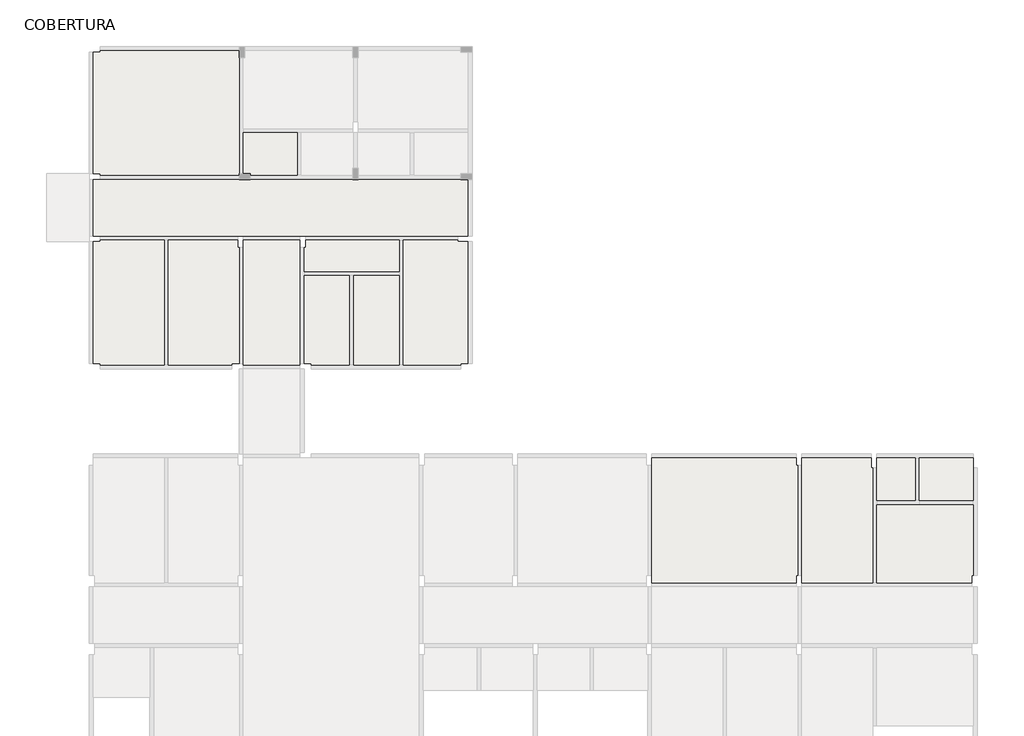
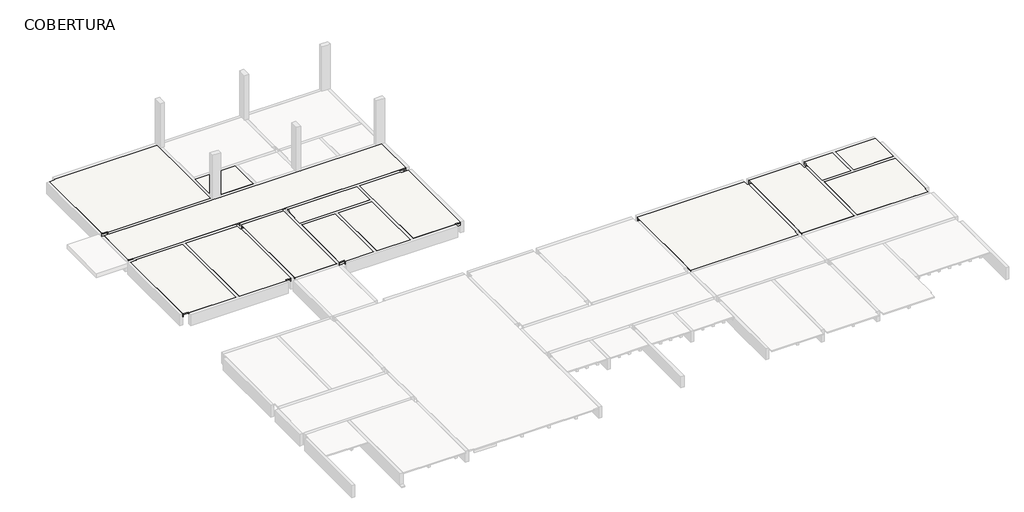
# One storey, part 3 of 5: 30 slabs.
"""IFC4 building model written with IfcOpenShell, lengths in millimetres."""

from ifc_helpers import new_model, si_unit, frame, origin, place, context, project, spatial, polyline, outline, extrude, faceted_brep, element, save

model = new_model("IFC4")

# Units and contexts
model_context = context("Model", 3, world=origin())
ifc_project = project(units=[si_unit("LENGTHUNIT", "METRE", prefix="MILLI")], contexts=[model_context])

# Site, building, storey
site = spatial("IfcSite", under=ifc_project)
building = spatial("IfcBuilding", under=site)
storey = spatial("IfcBuildingStorey", under=building, Name="COBERTURA", Elevation=4800.0)

# Slabs
placement = place(None, origin())
element("IfcSlab", 1, ObjectType="h=5", at=placement, inside=storey, context=model_context, shape_type="Brep", body=[
    faceted_brep([(19880.0, 11250.0, 4750.0), (24980.0, 11250.0, 4750.0), (24980.0, 11000.0, 4750.0), (25030.0, 11000.0, 4750.0), (25030.0, 7100.0, 4750.0), (24980.0, 7100.0, 4750.0), (24980.0, 6850.0, 4750.0), (19880.0, 6850.0, 4750.0), (19880.0, 11250.0, 4800.0), (19880.0, 11000.0, 4800.0), (19880.0, 7100.0, 4800.0), (19880.0, 6850.0, 4800.0), (24980.0, 6850.0, 4800.0), (24980.0, 7100.0, 4800.0), (25030.0, 7100.0, 4800.0), (25030.0, 11000.0, 4800.0), (24980.0, 11000.0, 4800.0), (24980.0, 11250.0, 4800.0)], [[[0, 1, 2, 3, 4, 5, 6, 7]], [[8, 9, 10, 11, 12, 13, 14, 15, 16, 17]], [[1, 0, 8, 17]], [[2, 1, 17, 16]], [[3, 2, 16, 15]], [[4, 3, 15, 14]], [[5, 4, 14, 13]], [[6, 5, 13, 12]], [[7, 6, 12, 11]], [[0, 7, 11, 10, 9, 8]]]),
])
element("IfcSlab", 2, ObjectType="h=10", at=placement, inside=storey, context=model_context, shape_type="SweptSolid", body=[
    extrude(outline(polyline([(19880.0, 11250.0), (24980.0, 11250.0), (24980.0, 11000.0), (25030.0, 11000.0), (25030.0, 7100.0), (24980.0, 7100.0), (24980.0, 6850.0), (24950.0, 6850.0), (24950.0, 7250.0), (23750.0, 7250.0), (23750.0, 6850.0), (23660.0, 6850.0), (23660.0, 7250.0), (22460.0, 7250.0), (22460.0, 6850.0), (22370.0, 6850.0), (22370.0, 7250.0), (21170.0, 7250.0), (21170.0, 6850.0), (21080.0, 6850.0), (21080.0, 7250.0), (19880.0, 7250.0), (19880.0, 7340.0), (21080.0, 7340.0), (21080.0, 7740.0), (19880.0, 7740.0), (19880.0, 7830.0), (21080.0, 7830.0), (21080.0, 8230.0), (19880.0, 8230.0), (19880.0, 8320.0), (21080.0, 8320.0), (21080.0, 8720.0), (19880.0, 8720.0), (19880.0, 8810.0), (21080.0, 8810.0), (21080.0, 9210.0), (19880.0, 9210.0), (19880.0, 9300.0), (21080.0, 9300.0), (21080.0, 9700.0), (19880.0, 9700.0), (19880.0, 9790.0), (21080.0, 9790.0), (21080.0, 10190.0), (19880.0, 10190.0), (19880.0, 10280.0), (21080.0, 10280.0), (21080.0, 10680.0), (19880.0, 10680.0), (19880.0, 10770.0), (21080.0, 10770.0), (21080.0, 11170.0), (19880.0, 11170.0), (19880.0, 11250.0)]), holes=[polyline([(22370.0, 7740.0), (21170.0, 7740.0), (21170.0, 7340.0), (22370.0, 7340.0), (22370.0, 7740.0)]), polyline([(23660.0, 7740.0), (22460.0, 7740.0), (22460.0, 7340.0), (23660.0, 7340.0), (23660.0, 7740.0)]), polyline([(24950.0, 7740.0), (23750.0, 7740.0), (23750.0, 7340.0), (24950.0, 7340.0), (24950.0, 7740.0)]), polyline([(22370.0, 8230.0), (21170.0, 8230.0), (21170.0, 7830.0), (22370.0, 7830.0), (22370.0, 8230.0)]), polyline([(23660.0, 8230.0), (22460.0, 8230.0), (22460.0, 7830.0), (23660.0, 7830.0), (23660.0, 8230.0)]), polyline([(24950.0, 8230.0), (23750.0, 8230.0), (23750.0, 7830.0), (24950.0, 7830.0), (24950.0, 8230.0)]), polyline([(22370.0, 8720.0), (21170.0, 8720.0), (21170.0, 8320.0), (22370.0, 8320.0), (22370.0, 8720.0)]), polyline([(23660.0, 8720.0), (22460.0, 8720.0), (22460.0, 8320.0), (23660.0, 8320.0), (23660.0, 8720.0)]), polyline([(24950.0, 8720.0), (23750.0, 8720.0), (23750.0, 8320.0), (24950.0, 8320.0), (24950.0, 8720.0)]), polyline([(22370.0, 9210.0), (21170.0, 9210.0), (21170.0, 8810.0), (22370.0, 8810.0), (22370.0, 9210.0)]), polyline([(23660.0, 9210.0), (22460.0, 9210.0), (22460.0, 8810.0), (23660.0, 8810.0), (23660.0, 9210.0)]), polyline([(24950.0, 9210.0), (23750.0, 9210.0), (23750.0, 8810.0), (24950.0, 8810.0), (24950.0, 9210.0)]), polyline([(22370.0, 9700.0), (21170.0, 9700.0), (21170.0, 9300.0), (22370.0, 9300.0), (22370.0, 9700.0)]), polyline([(23660.0, 9700.0), (22460.0, 9700.0), (22460.0, 9300.0), (23660.0, 9300.0), (23660.0, 9700.0)]), polyline([(24950.0, 9700.0), (23750.0, 9700.0), (23750.0, 9300.0), (24950.0, 9300.0), (24950.0, 9700.0)]), polyline([(22370.0, 10190.0), (21170.0, 10190.0), (21170.0, 9790.0), (22370.0, 9790.0), (22370.0, 10190.0)]), polyline([(23660.0, 10190.0), (22460.0, 10190.0), (22460.0, 9790.0), (23660.0, 9790.0), (23660.0, 10190.0)]), polyline([(24950.0, 10190.0), (23750.0, 10190.0), (23750.0, 9790.0), (24950.0, 9790.0), (24950.0, 10190.0)]), polyline([(22370.0, 10680.0), (21170.0, 10680.0), (21170.0, 10280.0), (22370.0, 10280.0), (22370.0, 10680.0)]), polyline([(23660.0, 10680.0), (22460.0, 10680.0), (22460.0, 10280.0), (23660.0, 10280.0), (23660.0, 10680.0)]), polyline([(24950.0, 10680.0), (23750.0, 10680.0), (23750.0, 10280.0), (24950.0, 10280.0), (24950.0, 10680.0)]), polyline([(22370.0, 11170.0), (21170.0, 11170.0), (21170.0, 10770.0), (22370.0, 10770.0), (22370.0, 11170.0)]), polyline([(23660.0, 11170.0), (22460.0, 11170.0), (22460.0, 10770.0), (23660.0, 10770.0), (23660.0, 11170.0)]), polyline([(24950.0, 11170.0), (23750.0, 11170.0), (23750.0, 10770.0), (24950.0, 10770.0), (24950.0, 11170.0)])]), frame((0.0, 0.0, 4650.0), z_axis=(0.0, 0.0, 1.0), x_axis=(1.0, 0.0, 0.0)), (0.0, 0.0, 1.0), 100.0),
])
element("IfcSlab", 3, ObjectType="h=5", at=placement, inside=storey, context=model_context, shape_type="Brep", body=[
    faceted_brep([(25180.0, 11250.0, 4750.0), (27630.0, 11250.0, 4750.0), (27630.0, 10900.0, 4750.0), (27680.0, 10900.0, 4750.0), (27680.0, 6850.0, 4750.0), (25180.0, 6850.0, 4750.0), (25180.0, 11250.0, 4800.0), (25180.0, 11000.0, 4800.0), (25180.0, 7100.0, 4800.0), (25180.0, 6850.0, 4800.0), (27680.0, 6850.0, 4800.0), (27680.0, 10900.0, 4800.0), (27630.0, 10900.0, 4800.0), (27630.0, 11250.0, 4800.0)], [[[0, 1, 2, 3, 4, 5]], [[6, 7, 8, 9, 10, 11, 12, 13]], [[1, 0, 6, 13]], [[2, 1, 13, 12]], [[3, 2, 12, 11]], [[4, 3, 11, 10]], [[5, 4, 10, 9]], [[0, 5, 9, 8, 7, 6]]]),
])
element("IfcSlab", 4, ObjectType="h=10", at=placement, inside=storey, context=model_context, shape_type="SweptSolid", body=[
    extrude(outline(polyline([(25180.0, 11250.0), (27630.0, 11250.0), (27630.0, 11170.0), (26470.0, 11170.0), (26470.0, 10770.0), (27670.0, 10770.0), (27670.0, 10900.0), (27680.0, 10900.0), (27680.0, 6850.0), (27670.0, 6850.0), (27670.0, 7250.0), (26470.0, 7250.0), (26470.0, 6850.0), (26380.0, 6850.0), (26380.0, 7250.0), (25180.0, 7250.0), (25180.0, 7340.0), (26380.0, 7340.0), (26380.0, 7740.0), (25180.0, 7740.0), (25180.0, 7830.0), (26380.0, 7830.0), (26380.0, 8230.0), (25180.0, 8230.0), (25180.0, 8320.0), (26380.0, 8320.0), (26380.0, 8720.0), (25180.0, 8720.0), (25180.0, 8810.0), (26380.0, 8810.0), (26380.0, 9210.0), (25180.0, 9210.0), (25180.0, 9300.0), (26380.0, 9300.0), (26380.0, 9700.0), (25180.0, 9700.0), (25180.0, 9790.0), (26380.0, 9790.0), (26380.0, 10190.0), (25180.0, 10190.0), (25180.0, 10280.0), (26380.0, 10280.0), (26380.0, 10680.0), (25180.0, 10680.0), (25180.0, 10770.0), (26380.0, 10770.0), (26380.0, 11170.0), (25180.0, 11170.0), (25180.0, 11250.0)]), holes=[polyline([(27670.0, 7740.0), (26470.0, 7740.0), (26470.0, 7340.0), (27670.0, 7340.0), (27670.0, 7740.0)]), polyline([(27670.0, 8230.0), (26470.0, 8230.0), (26470.0, 7830.0), (27670.0, 7830.0), (27670.0, 8230.0)]), polyline([(27670.0, 8720.0), (26470.0, 8720.0), (26470.0, 8320.0), (27670.0, 8320.0), (27670.0, 8720.0)]), polyline([(27670.0, 9210.0), (26470.0, 9210.0), (26470.0, 8810.0), (27670.0, 8810.0), (27670.0, 9210.0)]), polyline([(27670.0, 9700.0), (26470.0, 9700.0), (26470.0, 9300.0), (27670.0, 9300.0), (27670.0, 9700.0)]), polyline([(27670.0, 10190.0), (26470.0, 10190.0), (26470.0, 9790.0), (27670.0, 9790.0), (27670.0, 10190.0)]), polyline([(27670.0, 10680.0), (26470.0, 10680.0), (26470.0, 10280.0), (27670.0, 10280.0), (27670.0, 10680.0)])]), frame((0.0, 0.0, 4650.0), z_axis=(0.0, 0.0, 1.0), x_axis=(1.0, 0.0, 0.0)), (0.0, 0.0, 1.0), 100.0),
])
element("IfcSlab", 5, ObjectType="h=5", at=placement, inside=storey, context=model_context, shape_type="Brep", body=[
    faceted_brep([(31180.0, 6850.0, 4750.0), (27830.0, 6850.0, 4750.0), (27830.0, 9600.0, 4750.0), (31230.0, 9600.0, 4750.0), (31230.0, 7100.0, 4750.0), (31180.0, 7100.0, 4750.0), (31180.0, 6850.0, 4800.0), (31180.0, 7100.0, 4800.0), (31230.0, 7100.0, 4800.0), (31230.0, 9600.0, 4800.0), (29330.0, 9600.0, 4800.0), (27830.0, 9600.0, 4800.0), (27830.0, 6850.0, 4800.0)], [[[0, 1, 2, 3, 4, 5]], [[6, 7, 8, 9, 10, 11, 12]], [[1, 0, 6, 12]], [[2, 1, 12, 11]], [[3, 2, 11, 10, 9]], [[4, 3, 9, 8]], [[5, 4, 8, 7]], [[0, 5, 7, 6]]]),
])
element("IfcSlab", 6, ObjectType="h=10", at=placement, inside=storey, context=model_context, shape_type="SweptSolid", body=[
    extrude(outline(polyline([(31230.0, 7100.0), (31180.0, 7100.0), (31180.0, 7250.0), (30410.0, 7250.0), (30410.0, 6850.0), (30320.0, 6850.0), (30320.0, 7250.0), (29120.0, 7250.0), (29120.0, 6850.0), (29030.0, 6850.0), (29030.0, 7250.0), (27830.0, 7250.0), (27830.0, 7340.0), (29030.0, 7340.0), (29030.0, 7740.0), (27830.0, 7740.0), (27830.0, 7830.0), (29030.0, 7830.0), (29030.0, 8230.0), (27830.0, 8230.0), (27830.0, 8320.0), (29030.0, 8320.0), (29030.0, 8720.0), (27830.0, 8720.0), (27830.0, 8810.0), (29030.0, 8810.0), (29030.0, 9210.0), (27830.0, 9210.0), (27830.0, 9300.0), (29030.0, 9300.0), (29030.0, 9600.0), (29120.0, 9600.0), (29120.0, 9300.0), (30320.0, 9300.0), (30320.0, 9600.0), (30410.0, 9600.0), (30410.0, 9300.0), (31230.0, 9300.0), (31230.0, 9210.0), (30410.0, 9210.0), (30410.0, 8810.0), (31230.0, 8810.0), (31230.0, 8720.0), (30410.0, 8720.0), (30410.0, 8320.0), (31230.0, 8320.0), (31230.0, 8230.0), (30410.0, 8230.0), (30410.0, 7830.0), (31230.0, 7830.0), (31230.0, 7740.0), (30410.0, 7740.0), (30410.0, 7340.0), (31230.0, 7340.0), (31230.0, 7100.0)]), holes=[polyline([(30320.0, 7740.0), (29120.0, 7740.0), (29120.0, 7340.0), (30320.0, 7340.0), (30320.0, 7740.0)]), polyline([(30320.0, 8230.0), (29120.0, 8230.0), (29120.0, 7830.0), (30320.0, 7830.0), (30320.0, 8230.0)]), polyline([(30320.0, 8720.0), (29120.0, 8720.0), (29120.0, 8320.0), (30320.0, 8320.0), (30320.0, 8720.0)]), polyline([(30320.0, 9210.0), (29120.0, 9210.0), (29120.0, 8810.0), (30320.0, 8810.0), (30320.0, 9210.0)])]), frame((0.0, 0.0, 4650.0), z_axis=(0.0, 0.0, 1.0), x_axis=(1.0, 0.0, 0.0)), (0.0, 0.0, 1.0), 100.0),
])
element("IfcSlab", 7, ObjectType="h=5", at=placement, inside=storey, context=model_context, shape_type="Brep", body=[
    faceted_brep([(27830.0, 11250.0, 4750.0), (29180.0, 11250.0, 4750.0), (29180.0, 9750.0, 4750.0), (27830.0, 9750.0, 4750.0), (27830.0, 11250.0, 4800.0), (27830.0, 10900.0, 4800.0), (27830.0, 9750.0, 4800.0), (29180.0, 9750.0, 4800.0), (29180.0, 11250.0, 4800.0)], [[[0, 1, 2, 3]], [[4, 5, 6, 7, 8]], [[1, 0, 4, 8]], [[2, 1, 8, 7]], [[3, 2, 7, 6]], [[0, 3, 6, 5, 4]]]),
])
element("IfcSlab", 8, ObjectType="h=10", at=placement, inside=storey, context=model_context, shape_type="SweptSolid", body=[
    extrude(outline(polyline([(27830.0, 11250.0), (29180.0, 11250.0), (29180.0, 9750.0), (29030.0, 9750.0), (29030.0, 10150.0), (27830.0, 10150.0), (27830.0, 10240.0), (29030.0, 10240.0), (29030.0, 10640.0), (27830.0, 10640.0), (27830.0, 10730.0), (29030.0, 10730.0), (29030.0, 11130.0), (27830.0, 11130.0), (27830.0, 11250.0)])), frame((0.0, 0.0, 4650.0), z_axis=(0.0, 0.0, 1.0), x_axis=(1.0, 0.0, 0.0)), (0.0, 0.0, 1.0), 100.0),
])
element("IfcSlab", 9, ObjectType="h=5", at=placement, inside=storey, context=model_context, shape_type="Brep", body=[
    faceted_brep([(29330.0, 11250.0, 4750.0), (31230.0, 11250.0, 4750.0), (31230.0, 9750.0, 4750.0), (29330.0, 9750.0, 4750.0), (29330.0, 11250.0, 4800.0), (29330.0, 9750.0, 4800.0), (31230.0, 9750.0, 4800.0), (31230.0, 10900.0, 4800.0), (31230.0, 11250.0, 4800.0)], [[[0, 1, 2, 3]], [[4, 5, 6, 7, 8]], [[1, 0, 4, 8]], [[2, 1, 8, 7, 6]], [[3, 2, 6, 5]], [[0, 3, 5, 4]]]),
])
element("IfcSlab", 10, ObjectType="h=10", at=placement, inside=storey, context=model_context, shape_type="SweptSolid", body=[
    extrude(outline(polyline([(29330.0, 11250.0), (31230.0, 11250.0), (31230.0, 10640.0), (30620.0, 10640.0), (30620.0, 10240.0), (31230.0, 10240.0), (31230.0, 10150.0), (30620.0, 10150.0), (30620.0, 9750.0), (30530.0, 9750.0), (30530.0, 10150.0), (29330.0, 10150.0), (29330.0, 10240.0), (30530.0, 10240.0), (30530.0, 10640.0), (29330.0, 10640.0), (29330.0, 10730.0), (30530.0, 10730.0), (30530.0, 11130.0), (29330.0, 11130.0), (29330.0, 11250.0)]), holes=[polyline([(31180.0, 11130.0), (30620.0, 11130.0), (30620.0, 10730.0), (31180.0, 10730.0), (31180.0, 11130.0)])]), frame((0.0, 0.0, 4650.0), z_axis=(0.0, 0.0, 1.0), x_axis=(1.0, 0.0, 0.0)), (0.0, 0.0, 1.0), 100.0),
])
element("IfcSlab", 11, ObjectType="h=5", at=placement, inside=storey, context=model_context, shape_type="SweptSolid", body=[
    extrude(outline(polyline([(400.0, 18950.0), (2650.0, 18950.0), (2650.0, 14550.0), (400.0, 14550.0), (400.0, 14600.0), (150.0, 14600.0), (150.0, 18900.0), (400.0, 18900.0), (400.0, 18950.0)])), frame((0.0, 0.0, 4750.0), z_axis=(0.0, 0.0, 1.0), x_axis=(1.0, 0.0, 0.0)), (0.0, 0.0, 1.0), 50.0),
])
element("IfcSlab", 12, ObjectType="h=10", at=placement, inside=storey, context=model_context, shape_type="SweptSolid", body=[
    extrude(outline(polyline([(400.0, 18950.0), (2650.0, 18950.0), (2650.0, 18870.0), (1450.0, 18870.0), (1450.0, 18470.0), (2650.0, 18470.0), (2650.0, 18380.0), (1450.0, 18380.0), (1450.0, 17980.0), (2650.0, 17980.0), (2650.0, 17890.0), (1450.0, 17890.0), (1450.0, 17490.0), (2650.0, 17490.0), (2650.0, 17400.0), (1450.0, 17400.0), (1450.0, 17000.0), (2650.0, 17000.0), (2650.0, 16910.0), (1450.0, 16910.0), (1450.0, 16510.0), (2650.0, 16510.0), (2650.0, 16420.0), (1450.0, 16420.0), (1450.0, 16020.0), (2650.0, 16020.0), (2650.0, 15930.0), (1450.0, 15930.0), (1450.0, 15530.0), (2650.0, 15530.0), (2650.0, 15440.0), (1450.0, 15440.0), (1450.0, 15040.0), (2650.0, 15040.0), (2650.0, 14950.0), (1450.0, 14950.0), (1450.0, 14550.0), (1360.0, 14550.0), (1360.0, 14950.0), (160.0, 14950.0), (160.0, 14600.0), (150.0, 14600.0), (150.0, 18900.0), (400.0, 18900.0), (400.0, 18950.0)]), holes=[polyline([(1360.0, 15440.0), (160.0, 15440.0), (160.0, 15040.0), (1360.0, 15040.0), (1360.0, 15440.0)]), polyline([(1360.0, 15930.0), (160.0, 15930.0), (160.0, 15530.0), (1360.0, 15530.0), (1360.0, 15930.0)]), polyline([(1360.0, 16420.0), (160.0, 16420.0), (160.0, 16020.0), (1360.0, 16020.0), (1360.0, 16420.0)]), polyline([(1360.0, 16910.0), (160.0, 16910.0), (160.0, 16510.0), (1360.0, 16510.0), (1360.0, 16910.0)]), polyline([(1360.0, 17400.0), (160.0, 17400.0), (160.0, 17000.0), (1360.0, 17000.0), (1360.0, 17400.0)]), polyline([(1360.0, 17890.0), (160.0, 17890.0), (160.0, 17490.0), (1360.0, 17490.0), (1360.0, 17890.0)]), polyline([(1360.0, 18380.0), (160.0, 18380.0), (160.0, 17980.0), (1360.0, 17980.0), (1360.0, 18380.0)]), polyline([(1360.0, 18870.0), (160.0, 18870.0), (160.0, 18470.0), (1360.0, 18470.0), (1360.0, 18870.0)])]), frame((0.0, 0.0, 4650.0), z_axis=(0.0, 0.0, 1.0), x_axis=(1.0, 0.0, 0.0)), (0.0, 0.0, 1.0), 100.0),
])
element("IfcSlab", 13, ObjectType="h=5", at=placement, inside=storey, context=model_context, shape_type="SweptSolid", body=[
    extrude(outline(polyline([(2800.0, 18950.0), (5250.0, 18950.0), (5250.0, 18700.0), (5300.0, 18700.0), (5300.0, 14600.0), (5050.0, 14600.0), (5050.0, 14550.0), (2800.0, 14550.0), (2800.0, 18950.0)])), frame((0.0, 0.0, 4750.0), z_axis=(0.0, 0.0, 1.0), x_axis=(1.0, 0.0, 0.0)), (0.0, 0.0, 1.0), 50.0),
])
element("IfcSlab", 14, ObjectType="h=10", at=placement, inside=storey, context=model_context, shape_type="SweptSolid", body=[
    extrude(outline(polyline([(2800.0, 18950.0), (5250.0, 18950.0), (5250.0, 18870.0), (4090.0, 18870.0), (4090.0, 18470.0), (5290.0, 18470.0), (5290.0, 18700.0), (5300.0, 18700.0), (5300.0, 14600.0), (5290.0, 14600.0), (5290.0, 14950.0), (4090.0, 14950.0), (4090.0, 14550.0), (4000.0, 14550.0), (4000.0, 14950.0), (2800.0, 14950.0), (2800.0, 15040.0), (4000.0, 15040.0), (4000.0, 15440.0), (2800.0, 15440.0), (2800.0, 15530.0), (4000.0, 15530.0), (4000.0, 15930.0), (2800.0, 15930.0), (2800.0, 16020.0), (4000.0, 16020.0), (4000.0, 16420.0), (2800.0, 16420.0), (2800.0, 16510.0), (4000.0, 16510.0), (4000.0, 16910.0), (2800.0, 16910.0), (2800.0, 17000.0), (4000.0, 17000.0), (4000.0, 17400.0), (2800.0, 17400.0), (2800.0, 17490.0), (4000.0, 17490.0), (4000.0, 17890.0), (2800.0, 17890.0), (2800.0, 17980.0), (4000.0, 17980.0), (4000.0, 18380.0), (2800.0, 18380.0), (2800.0, 18470.0), (4000.0, 18470.0), (4000.0, 18870.0), (2800.0, 18870.0), (2800.0, 18950.0)]), holes=[polyline([(5290.0, 15440.0), (4090.0, 15440.0), (4090.0, 15040.0), (5290.0, 15040.0), (5290.0, 15440.0)]), polyline([(5290.0, 15930.0), (4090.0, 15930.0), (4090.0, 15530.0), (5290.0, 15530.0), (5290.0, 15930.0)]), polyline([(5290.0, 16420.0), (4090.0, 16420.0), (4090.0, 16020.0), (5290.0, 16020.0), (5290.0, 16420.0)]), polyline([(5290.0, 16910.0), (4090.0, 16910.0), (4090.0, 16510.0), (5290.0, 16510.0), (5290.0, 16910.0)]), polyline([(5290.0, 17400.0), (4090.0, 17400.0), (4090.0, 17000.0), (5290.0, 17000.0), (5290.0, 17400.0)]), polyline([(5290.0, 17890.0), (4090.0, 17890.0), (4090.0, 17490.0), (5290.0, 17490.0), (5290.0, 17890.0)]), polyline([(5290.0, 18380.0), (4090.0, 18380.0), (4090.0, 17980.0), (5290.0, 17980.0), (5290.0, 18380.0)])]), frame((0.0, 0.0, 4650.0), z_axis=(0.0, 0.0, 1.0), x_axis=(1.0, 0.0, 0.0)), (0.0, 0.0, 1.0), 100.0),
])
element("IfcSlab", 15, ObjectType="h=5", at=placement, inside=storey, context=model_context, shape_type="Brep", body=[
    faceted_brep([(5450.0, 18950.0, 4750.0), (7450.0, 18950.0, 4750.0), (7450.0, 14550.0, 4750.0), (5450.0, 14550.0, 4750.0), (5450.0, 18950.0, 4800.0), (5450.0, 18700.0, 4800.0), (5450.0, 14600.0, 4800.0), (5450.0, 14550.0, 4800.0), (7450.0, 14550.0, 4800.0), (7450.0, 14600.0, 4800.0), (7450.0, 18700.0, 4800.0), (7450.0, 18950.0, 4800.0)], [[[0, 1, 2, 3]], [[4, 5, 6, 7, 8, 9, 10, 11]], [[1, 0, 4, 11]], [[2, 1, 11, 10, 9, 8]], [[3, 2, 8, 7]], [[0, 3, 7, 6, 5, 4]]]),
])
element("IfcSlab", 16, ObjectType="h=10", at=placement, inside=storey, context=model_context, shape_type="SweptSolid", body=[
    extrude(outline(polyline([(5450.0, 18950.0), (7450.0, 18950.0), (7450.0, 18870.0), (6740.0, 18870.0), (6740.0, 18470.0), (7450.0, 18470.0), (7450.0, 18380.0), (6740.0, 18380.0), (6740.0, 17980.0), (7450.0, 17980.0), (7450.0, 17890.0), (6740.0, 17890.0), (6740.0, 17490.0), (7450.0, 17490.0), (7450.0, 17400.0), (6740.0, 17400.0), (6740.0, 17000.0), (7450.0, 17000.0), (7450.0, 16910.0), (6740.0, 16910.0), (6740.0, 16510.0), (7450.0, 16510.0), (7450.0, 16420.0), (6740.0, 16420.0), (6740.0, 16020.0), (7450.0, 16020.0), (7450.0, 15930.0), (6740.0, 15930.0), (6740.0, 15530.0), (7450.0, 15530.0), (7450.0, 15440.0), (6740.0, 15440.0), (6740.0, 15040.0), (7450.0, 15040.0), (7450.0, 14950.0), (6740.0, 14950.0), (6740.0, 14550.0), (6650.0, 14550.0), (6650.0, 14950.0), (5450.0, 14950.0), (5450.0, 15040.0), (6650.0, 15040.0), (6650.0, 15440.0), (5450.0, 15440.0), (5450.0, 15530.0), (6650.0, 15530.0), (6650.0, 15930.0), (5450.0, 15930.0), (5450.0, 16020.0), (6650.0, 16020.0), (6650.0, 16420.0), (5450.0, 16420.0), (5450.0, 16510.0), (6650.0, 16510.0), (6650.0, 16910.0), (5450.0, 16910.0), (5450.0, 17000.0), (6650.0, 17000.0), (6650.0, 17400.0), (5450.0, 17400.0), (5450.0, 17490.0), (6650.0, 17490.0), (6650.0, 17890.0), (5450.0, 17890.0), (5450.0, 17980.0), (6650.0, 17980.0), (6650.0, 18380.0), (5450.0, 18380.0), (5450.0, 18470.0), (6650.0, 18470.0), (6650.0, 18870.0), (5450.0, 18870.0), (5450.0, 18950.0)])), frame((0.0, 0.0, 4650.0), z_axis=(0.0, 0.0, 1.0), x_axis=(1.0, 0.0, 0.0)), (0.0, 0.0, 1.0), 100.0),
])
element("IfcSlab", 17, ObjectType="h=5", at=placement, inside=storey, context=model_context, shape_type="SweptSolid", body=[
    extrude(outline(polyline([(9200.0, 14550.0), (7850.0, 14550.0), (7850.0, 14600.0), (7600.0, 14600.0), (7600.0, 17700.0), (9200.0, 17700.0), (9200.0, 14550.0)])), frame((0.0, 0.0, 4750.0), z_axis=(0.0, 0.0, 1.0), x_axis=(1.0, 0.0, 0.0)), (0.0, 0.0, 1.0), 50.0),
])
element("IfcSlab", 18, ObjectType="h=10", at=placement, inside=storey, context=model_context, shape_type="SweptSolid", body=[
    extrude(outline(polyline([(7850.0, 14550.0), (7850.0, 14600.0), (7600.0, 14600.0), (7600.0, 15040.0), (7910.0, 15040.0), (7910.0, 15440.0), (7600.0, 15440.0), (7600.0, 15530.0), (7910.0, 15530.0), (7910.0, 15930.0), (7600.0, 15930.0), (7600.0, 16020.0), (7910.0, 16020.0), (7910.0, 16420.0), (7600.0, 16420.0), (7600.0, 16510.0), (7910.0, 16510.0), (7910.0, 16910.0), (7600.0, 16910.0), (7600.0, 17000.0), (7910.0, 17000.0), (7910.0, 17400.0), (7600.0, 17400.0), (7600.0, 17490.0), (7910.0, 17490.0), (7910.0, 17700.0), (8000.0, 17700.0), (8000.0, 17490.0), (9200.0, 17490.0), (9200.0, 17400.0), (8000.0, 17400.0), (8000.0, 17000.0), (9200.0, 17000.0), (9200.0, 16910.0), (8000.0, 16910.0), (8000.0, 16510.0), (9200.0, 16510.0), (9200.0, 16420.0), (8000.0, 16420.0), (8000.0, 16020.0), (9200.0, 16020.0), (9200.0, 15930.0), (8000.0, 15930.0), (8000.0, 15530.0), (9200.0, 15530.0), (9200.0, 15440.0), (8000.0, 15440.0), (8000.0, 15040.0), (9200.0, 15040.0), (9200.0, 14950.0), (8000.0, 14950.0), (8000.0, 14550.0), (7850.0, 14550.0)])), frame((0.0, 0.0, 4650.0), z_axis=(0.0, 0.0, 1.0), x_axis=(1.0, 0.0, 0.0)), (0.0, 0.0, 1.0), 100.0),
])
element("IfcSlab", 19, ObjectType="h=5", at=placement, inside=storey, context=model_context, shape_type="SweptSolid", body=[
    extrude(outline(polyline([(10950.0, 14550.0), (9350.0, 14550.0), (9350.0, 17700.0), (10950.0, 17700.0), (10950.0, 14550.0)])), frame((0.0, 0.0, 4750.0), z_axis=(0.0, 0.0, 1.0), x_axis=(1.0, 0.0, 0.0)), (0.0, 0.0, 1.0), 50.0),
])
element("IfcSlab", 20, ObjectType="h=10", at=placement, inside=storey, context=model_context, shape_type="SweptSolid", body=[
    extrude(outline(polyline([(10550.0, 14950.0), (9350.0, 14950.0), (9350.0, 15040.0), (10550.0, 15040.0), (10550.0, 15440.0), (9350.0, 15440.0), (9350.0, 15530.0), (10550.0, 15530.0), (10550.0, 15930.0), (9350.0, 15930.0), (9350.0, 16020.0), (10550.0, 16020.0), (10550.0, 16420.0), (9350.0, 16420.0), (9350.0, 16510.0), (10550.0, 16510.0), (10550.0, 16910.0), (9350.0, 16910.0), (9350.0, 17000.0), (10550.0, 17000.0), (10550.0, 17400.0), (9350.0, 17400.0), (9350.0, 17490.0), (10550.0, 17490.0), (10550.0, 17700.0), (10640.0, 17700.0), (10640.0, 17490.0), (10950.0, 17490.0), (10950.0, 17400.0), (10640.0, 17400.0), (10640.0, 17000.0), (10950.0, 17000.0), (10950.0, 16910.0), (10640.0, 16910.0), (10640.0, 16510.0), (10950.0, 16510.0), (10950.0, 16420.0), (10640.0, 16420.0), (10640.0, 16020.0), (10950.0, 16020.0), (10950.0, 15930.0), (10640.0, 15930.0), (10640.0, 15530.0), (10950.0, 15530.0), (10950.0, 15440.0), (10640.0, 15440.0), (10640.0, 15040.0), (10950.0, 15040.0), (10950.0, 14950.0), (10640.0, 14950.0), (10640.0, 14550.0), (10550.0, 14550.0), (10550.0, 14950.0)])), frame((0.0, 0.0, 4650.0), z_axis=(0.0, 0.0, 1.0), x_axis=(1.0, 0.0, 0.0)), (0.0, 0.0, 1.0), 100.0),
])
element("IfcSlab", 21, ObjectType="h=5", at=placement, inside=storey, context=model_context, shape_type="SweptSolid", body=[
    extrude(outline(polyline([(13380.0, 18900.0), (13380.0, 14600.0), (13130.0, 14600.0), (13130.0, 14550.0), (11100.0, 14550.0), (11100.0, 18950.0), (13030.0, 18950.0), (13030.0, 18900.0), (13380.0, 18900.0)])), frame((0.0, 0.0, 4750.0), z_axis=(0.0, 0.0, 1.0), x_axis=(1.0, 0.0, 0.0)), (0.0, 0.0, 1.0), 50.0),
])
element("IfcSlab", 22, ObjectType="h=10", at=placement, inside=storey, context=model_context, shape_type="SweptSolid", body=[
    extrude(outline(polyline([(13380.0, 14600.0), (13130.0, 14600.0), (13130.0, 14950.0), (12390.0, 14950.0), (12390.0, 14550.0), (12300.0, 14550.0), (12300.0, 14950.0), (11100.0, 14950.0), (11100.0, 15040.0), (12300.0, 15040.0), (12300.0, 15440.0), (11100.0, 15440.0), (11100.0, 15530.0), (12300.0, 15530.0), (12300.0, 15930.0), (11100.0, 15930.0), (11100.0, 16020.0), (12300.0, 16020.0), (12300.0, 16420.0), (11100.0, 16420.0), (11100.0, 16510.0), (12300.0, 16510.0), (12300.0, 16910.0), (11100.0, 16910.0), (11100.0, 17000.0), (12300.0, 17000.0), (12300.0, 17400.0), (11100.0, 17400.0), (11100.0, 17490.0), (12300.0, 17490.0), (12300.0, 17890.0), (11100.0, 17890.0), (11100.0, 17980.0), (12300.0, 17980.0), (12300.0, 18380.0), (11100.0, 18380.0), (11100.0, 18470.0), (12300.0, 18470.0), (12300.0, 18870.0), (11100.0, 18870.0), (11100.0, 18950.0), (13030.0, 18950.0), (13030.0, 18900.0), (13380.0, 18900.0), (13380.0, 18870.0), (12390.0, 18870.0), (12390.0, 18470.0), (13380.0, 18470.0), (13380.0, 18380.0), (12390.0, 18380.0), (12390.0, 17980.0), (13380.0, 17980.0), (13380.0, 17890.0), (12390.0, 17890.0), (12390.0, 17490.0), (13380.0, 17490.0), (13380.0, 17400.0), (12390.0, 17400.0), (12390.0, 17000.0), (13380.0, 17000.0), (13380.0, 16910.0), (12390.0, 16910.0), (12390.0, 16510.0), (13380.0, 16510.0), (13380.0, 16420.0), (12390.0, 16420.0), (12390.0, 16020.0), (13380.0, 16020.0), (13380.0, 15930.0), (12390.0, 15930.0), (12390.0, 15530.0), (13380.0, 15530.0), (13380.0, 15440.0), (12390.0, 15440.0), (12390.0, 15040.0), (13380.0, 15040.0), (13380.0, 14600.0)])), frame((0.0, 0.0, 4650.0), z_axis=(0.0, 0.0, 1.0), x_axis=(1.0, 0.0, 0.0)), (0.0, 0.0, 1.0), 100.0),
])
element("IfcSlab", 23, ObjectType="h=5", at=placement, inside=storey, context=model_context, shape_type="SweptSolid", body=[
    extrude(outline(polyline([(7650.0, 18950.0), (10950.0, 18950.0), (10950.0, 17850.0), (7600.0, 17850.0), (7600.0, 18700.0), (7650.0, 18700.0), (7650.0, 18950.0)])), frame((0.0, 0.0, 4750.0), z_axis=(0.0, 0.0, 1.0), x_axis=(1.0, 0.0, 0.0)), (0.0, 0.0, 1.0), 50.0),
])
element("IfcSlab", 24, ObjectType="h=10", at=placement, inside=storey, context=model_context, shape_type="SweptSolid", body=[
    extrude(outline(polyline([(7600.0, 17850.0), (7600.0, 18700.0), (7610.0, 18700.0), (7610.0, 17850.0), (7600.0, 17850.0)])), frame((0.0, 0.0, 4650.0), z_axis=(0.0, 0.0, 1.0), x_axis=(1.0, 0.0, 0.0)), (0.0, 0.0, 1.0), 100.0),
    extrude(outline(polyline([(10550.0, 18950.0), (10550.0, 17850.0), (10460.0, 17850.0), (10460.0, 18950.0), (10550.0, 18950.0)])), frame((0.0, 0.0, 4650.0), z_axis=(0.0, 0.0, 1.0), x_axis=(1.0, 0.0, 0.0)), (0.0, 0.0, 1.0), 100.0),
    extrude(outline(polyline([(10060.0, 18950.0), (10060.0, 17850.0), (9970.0, 17850.0), (9970.0, 18950.0), (10060.0, 18950.0)])), frame((0.0, 0.0, 4650.0), z_axis=(0.0, 0.0, 1.0), x_axis=(1.0, 0.0, 0.0)), (0.0, 0.0, 1.0), 100.0),
    extrude(outline(polyline([(9570.0, 18950.0), (9570.0, 17850.0), (9480.0, 17850.0), (9480.0, 18950.0), (9570.0, 18950.0)])), frame((0.0, 0.0, 4650.0), z_axis=(0.0, 0.0, 1.0), x_axis=(1.0, 0.0, 0.0)), (0.0, 0.0, 1.0), 100.0),
    extrude(outline(polyline([(9080.0, 18950.0), (9080.0, 17850.0), (8990.0, 17850.0), (8990.0, 18950.0), (9080.0, 18950.0)])), frame((0.0, 0.0, 4650.0), z_axis=(0.0, 0.0, 1.0), x_axis=(1.0, 0.0, 0.0)), (0.0, 0.0, 1.0), 100.0),
    extrude(outline(polyline([(8590.0, 18950.0), (8590.0, 17850.0), (8500.0, 17850.0), (8500.0, 18950.0), (8590.0, 18950.0)])), frame((0.0, 0.0, 4650.0), z_axis=(0.0, 0.0, 1.0), x_axis=(1.0, 0.0, 0.0)), (0.0, 0.0, 1.0), 100.0),
    extrude(outline(polyline([(8100.0, 18950.0), (8100.0, 17850.0), (8010.0, 17850.0), (8010.0, 18950.0), (8100.0, 18950.0)])), frame((0.0, 0.0, 4650.0), z_axis=(0.0, 0.0, 1.0), x_axis=(1.0, 0.0, 0.0)), (0.0, 0.0, 1.0), 100.0),
])
element("IfcSlab", 25, ObjectType="h=5", at=placement, inside=storey, context=model_context, shape_type="Brep", body=[
    faceted_brep([(150.0, 19100.0, 4750.0), (150.0, 21100.0, 4750.0), (13380.0, 21100.0, 4750.0), (13380.0, 19100.0, 4750.0), (150.0, 19100.0, 4800.0), (400.0, 19100.0, 4800.0), (5250.0, 19100.0, 4800.0), (5450.0, 19100.0, 4800.0), (7450.0, 19100.0, 4800.0), (7650.0, 19100.0, 4800.0), (13030.0, 19100.0, 4800.0), (13380.0, 19100.0, 4800.0), (13380.0, 21100.0, 4800.0), (13130.0, 21100.0, 4800.0), (9515.0, 21100.0, 4800.0), (9315.0, 21100.0, 4800.0), (5700.0, 21100.0, 4800.0), (5300.0, 21100.0, 4800.0), (400.0, 21100.0, 4800.0), (150.0, 21100.0, 4800.0)], [[[0, 1, 2, 3]], [[4, 5, 6, 7, 8, 9, 10, 11, 12, 13, 14, 15, 16, 17, 18, 19]], [[1, 0, 4, 19]], [[2, 1, 19, 18, 17, 16, 15, 14, 13, 12]], [[3, 2, 12, 11]], [[0, 3, 11, 10, 9, 8, 7, 6, 5, 4]]]),
])
element("IfcSlab", 26, ObjectType="h=10", at=placement, inside=storey, context=model_context, shape_type="SweptSolid", body=[
    extrude(outline(polyline([(13380.0, 21100.0), (13380.0, 19100.0), (13290.0, 19100.0), (13290.0, 20300.0), (12890.0, 20300.0), (12890.0, 19100.0), (12800.0, 19100.0), (12800.0, 20300.0), (12400.0, 20300.0), (12400.0, 19100.0), (12310.0, 19100.0), (12310.0, 20300.0), (11910.0, 20300.0), (11910.0, 19100.0), (11820.0, 19100.0), (11820.0, 20300.0), (11420.0, 20300.0), (11420.0, 19100.0), (11330.0, 19100.0), (11330.0, 20300.0), (10930.0, 20300.0), (10930.0, 19100.0), (10840.0, 19100.0), (10840.0, 20300.0), (10440.0, 20300.0), (10440.0, 19100.0), (10350.0, 19100.0), (10350.0, 20300.0), (9950.0, 20300.0), (9950.0, 19100.0), (9860.0, 19100.0), (9860.0, 20300.0), (9460.0, 20300.0), (9460.0, 19100.0), (9370.0, 19100.0), (9370.0, 20300.0), (8970.0, 20300.0), (8970.0, 19100.0), (8880.0, 19100.0), (8880.0, 20300.0), (8480.0, 20300.0), (8480.0, 19100.0), (8390.0, 19100.0), (8390.0, 20300.0), (7990.0, 20300.0), (7990.0, 19100.0), (7900.0, 19100.0), (7900.0, 20300.0), (7500.0, 20300.0), (7500.0, 19100.0), (7410.0, 19100.0), (7410.0, 20300.0), (7010.0, 20300.0), (7010.0, 19100.0), (6920.0, 19100.0), (6920.0, 20300.0), (6520.0, 20300.0), (6520.0, 19100.0), (6430.0, 19100.0), (6430.0, 20300.0), (6030.0, 20300.0), (6030.0, 19100.0), (5940.0, 19100.0), (5940.0, 20300.0), (5540.0, 20300.0), (5540.0, 19100.0), (5450.0, 19100.0), (5450.0, 20300.0), (5050.0, 20300.0), (5050.0, 19100.0), (4960.0, 19100.0), (4960.0, 20300.0), (4560.0, 20300.0), (4560.0, 19100.0), (4470.0, 19100.0), (4470.0, 20300.0), (4070.0, 20300.0), (4070.0, 19100.0), (3980.0, 19100.0), (3980.0, 20300.0), (3580.0, 20300.0), (3580.0, 19100.0), (3490.0, 19100.0), (3490.0, 20300.0), (3090.0, 20300.0), (3090.0, 19100.0), (3000.0, 19100.0), (3000.0, 20300.0), (2600.0, 20300.0), (2600.0, 19100.0), (2510.0, 19100.0), (2510.0, 20300.0), (2110.0, 20300.0), (2110.0, 19100.0), (2020.0, 19100.0), (2020.0, 20300.0), (1620.0, 20300.0), (1620.0, 19100.0), (1530.0, 19100.0), (1530.0, 20300.0), (1130.0, 20300.0), (1130.0, 19100.0), (1040.0, 19100.0), (1040.0, 20300.0), (640.0, 20300.0), (640.0, 19100.0), (550.0, 19100.0), (550.0, 20300.0), (150.0, 20300.0), (150.0, 20390.0), (550.0, 20390.0), (550.0, 21100.0), (640.0, 21100.0), (640.0, 20390.0), (1040.0, 20390.0), (1040.0, 21100.0), (1130.0, 21100.0), (1130.0, 20390.0), (1530.0, 20390.0), (1530.0, 21100.0), (1620.0, 21100.0), (1620.0, 20390.0), (2020.0, 20390.0), (2020.0, 21100.0), (2110.0, 21100.0), (2110.0, 20390.0), (2510.0, 20390.0), (2510.0, 21100.0), (2600.0, 21100.0), (2600.0, 20390.0), (3000.0, 20390.0), (3000.0, 21100.0), (3090.0, 21100.0), (3090.0, 20390.0), (3490.0, 20390.0), (3490.0, 21100.0), (3580.0, 21100.0), (3580.0, 20390.0), (3980.0, 20390.0), (3980.0, 21100.0), (4070.0, 21100.0), (4070.0, 20390.0), (4470.0, 20390.0), (4470.0, 21100.0), (4560.0, 21100.0), (4560.0, 20390.0), (4960.0, 20390.0), (4960.0, 21100.0), (5050.0, 21100.0), (5050.0, 20390.0), (5450.0, 20390.0), (5450.0, 21100.0), (5540.0, 21100.0), (5540.0, 20390.0), (5940.0, 20390.0), (5940.0, 21100.0), (6030.0, 21100.0), (6030.0, 20390.0), (6430.0, 20390.0), (6430.0, 21100.0), (6520.0, 21100.0), (6520.0, 20390.0), (6920.0, 20390.0), (6920.0, 21100.0), (7010.0, 21100.0), (7010.0, 20390.0), (7410.0, 20390.0), (7410.0, 21100.0), (7500.0, 21100.0), (7500.0, 20390.0), (7900.0, 20390.0), (7900.0, 21100.0), (7990.0, 21100.0), (7990.0, 20390.0), (8390.0, 20390.0), (8390.0, 21100.0), (8480.0, 21100.0), (8480.0, 20390.0), (8880.0, 20390.0), (8880.0, 21100.0), (8970.0, 21100.0), (8970.0, 20390.0), (9370.0, 20390.0), (9370.0, 21100.0), (9460.0, 21100.0), (9460.0, 20390.0), (9860.0, 20390.0), (9860.0, 21100.0), (9950.0, 21100.0), (9950.0, 20390.0), (10350.0, 20390.0), (10350.0, 21100.0), (10440.0, 21100.0), (10440.0, 20390.0), (10840.0, 20390.0), (10840.0, 21100.0), (10930.0, 21100.0), (10930.0, 20390.0), (11330.0, 20390.0), (11330.0, 21100.0), (11420.0, 21100.0), (11420.0, 20390.0), (11820.0, 20390.0), (11820.0, 21100.0), (11910.0, 21100.0), (11910.0, 20390.0), (12310.0, 20390.0), (12310.0, 21100.0), (12400.0, 21100.0), (12400.0, 20390.0), (12800.0, 20390.0), (12800.0, 21100.0), (12890.0, 21100.0), (12890.0, 20390.0), (13290.0, 20390.0), (13290.0, 21100.0), (13380.0, 21100.0)])), frame((0.0, 0.0, 4650.0), z_axis=(0.0, 0.0, 1.0), x_axis=(1.0, 0.0, 0.0)), (0.0, 0.0, 1.0), 100.0),
])
element("IfcSlab", 27, ObjectType="h=5", at=placement, inside=storey, context=model_context, shape_type="Brep", body=[
    faceted_brep([(400.0, 25650.0, 4750.0), (5300.0, 25650.0, 4750.0), (5300.0, 21250.0, 4750.0), (400.0, 21250.0, 4750.0), (400.0, 21300.0, 4750.0), (150.0, 21300.0, 4750.0), (150.0, 25600.0, 4750.0), (400.0, 25600.0, 4750.0), (400.0, 25650.0, 4800.0), (400.0, 25600.0, 4800.0), (150.0, 25600.0, 4800.0), (150.0, 21300.0, 4800.0), (400.0, 21300.0, 4800.0), (400.0, 21250.0, 4800.0), (5300.0, 21250.0, 4800.0), (5300.0, 21300.0, 4800.0), (5300.0, 25400.0, 4800.0), (5300.0, 25650.0, 4800.0)], [[[0, 1, 2, 3, 4, 5, 6, 7]], [[8, 9, 10, 11, 12, 13, 14, 15, 16, 17]], [[1, 0, 8, 17]], [[2, 1, 17, 16, 15, 14]], [[3, 2, 14, 13]], [[4, 3, 13, 12]], [[5, 4, 12, 11]], [[6, 5, 11, 10]], [[7, 6, 10, 9]], [[0, 7, 9, 8]]]),
])
element("IfcSlab", 28, ObjectType="h=10", at=placement, inside=storey, context=model_context, shape_type="SweptSolid", body=[
    extrude(outline(polyline([(400.0, 21250.0), (400.0, 21300.0), (150.0, 21300.0), (150.0, 22540.0), (400.0, 22540.0), (400.0, 23740.0), (150.0, 23740.0), (150.0, 23830.0), (400.0, 23830.0), (400.0, 25030.0), (150.0, 25030.0), (150.0, 25120.0), (400.0, 25120.0), (400.0, 25650.0), (490.0, 25650.0), (490.0, 25120.0), (890.0, 25120.0), (890.0, 25650.0), (980.0, 25650.0), (980.0, 25120.0), (1380.0, 25120.0), (1380.0, 25650.0), (1470.0, 25650.0), (1470.0, 25120.0), (1870.0, 25120.0), (1870.0, 25650.0), (1960.0, 25650.0), (1960.0, 25120.0), (2360.0, 25120.0), (2360.0, 25650.0), (2450.0, 25650.0), (2450.0, 25120.0), (2850.0, 25120.0), (2850.0, 25650.0), (2940.0, 25650.0), (2940.0, 25120.0), (3340.0, 25120.0), (3340.0, 25650.0), (3430.0, 25650.0), (3430.0, 25120.0), (3830.0, 25120.0), (3830.0, 25650.0), (3920.0, 25650.0), (3920.0, 25120.0), (4320.0, 25120.0), (4320.0, 25650.0), (4410.0, 25650.0), (4410.0, 25120.0), (4810.0, 25120.0), (4810.0, 25650.0), (4900.0, 25650.0), (4900.0, 25120.0), (5300.0, 25120.0), (5300.0, 25030.0), (4900.0, 25030.0), (4900.0, 23830.0), (5300.0, 23830.0), (5300.0, 23740.0), (4900.0, 23740.0), (4900.0, 22540.0), (5300.0, 22540.0), (5300.0, 22450.0), (4900.0, 22450.0), (4900.0, 21250.0), (4810.0, 21250.0), (4810.0, 22450.0), (4410.0, 22450.0), (4410.0, 21250.0), (4320.0, 21250.0), (4320.0, 22450.0), (3920.0, 22450.0), (3920.0, 21250.0), (3830.0, 21250.0), (3830.0, 22450.0), (3430.0, 22450.0), (3430.0, 21250.0), (3340.0, 21250.0), (3340.0, 22450.0), (2940.0, 22450.0), (2940.0, 21250.0), (2850.0, 21250.0), (2850.0, 22450.0), (2450.0, 22450.0), (2450.0, 21250.0), (2360.0, 21250.0), (2360.0, 22450.0), (1960.0, 22450.0), (1960.0, 21250.0), (1870.0, 21250.0), (1870.0, 22450.0), (1470.0, 22450.0), (1470.0, 21250.0), (1380.0, 21250.0), (1380.0, 22450.0), (980.0, 22450.0), (980.0, 21250.0), (890.0, 21250.0), (890.0, 22450.0), (490.0, 22450.0), (490.0, 21250.0), (400.0, 21250.0)]), holes=[polyline([(4410.0, 23740.0), (4410.0, 22540.0), (4810.0, 22540.0), (4810.0, 23740.0), (4410.0, 23740.0)]), polyline([(4410.0, 25030.0), (4410.0, 23830.0), (4810.0, 23830.0), (4810.0, 25030.0), (4410.0, 25030.0)]), polyline([(3920.0, 23740.0), (3920.0, 22540.0), (4320.0, 22540.0), (4320.0, 23740.0), (3920.0, 23740.0)]), polyline([(3920.0, 25030.0), (3920.0, 23830.0), (4320.0, 23830.0), (4320.0, 25030.0), (3920.0, 25030.0)]), polyline([(3430.0, 23740.0), (3430.0, 22540.0), (3830.0, 22540.0), (3830.0, 23740.0), (3430.0, 23740.0)]), polyline([(3430.0, 25030.0), (3430.0, 23830.0), (3830.0, 23830.0), (3830.0, 25030.0), (3430.0, 25030.0)]), polyline([(2940.0, 23740.0), (2940.0, 22540.0), (3340.0, 22540.0), (3340.0, 23740.0), (2940.0, 23740.0)]), polyline([(2940.0, 25030.0), (2940.0, 23830.0), (3340.0, 23830.0), (3340.0, 25030.0), (2940.0, 25030.0)]), polyline([(2450.0, 23740.0), (2450.0, 22540.0), (2850.0, 22540.0), (2850.0, 23740.0), (2450.0, 23740.0)]), polyline([(2450.0, 25030.0), (2450.0, 23830.0), (2850.0, 23830.0), (2850.0, 25030.0), (2450.0, 25030.0)]), polyline([(1960.0, 23740.0), (1960.0, 22540.0), (2360.0, 22540.0), (2360.0, 23740.0), (1960.0, 23740.0)]), polyline([(1960.0, 25030.0), (1960.0, 23830.0), (2360.0, 23830.0), (2360.0, 25030.0), (1960.0, 25030.0)]), polyline([(1470.0, 23740.0), (1470.0, 22540.0), (1870.0, 22540.0), (1870.0, 23740.0), (1470.0, 23740.0)]), polyline([(1470.0, 25030.0), (1470.0, 23830.0), (1870.0, 23830.0), (1870.0, 25030.0), (1470.0, 25030.0)]), polyline([(980.0, 23740.0), (980.0, 22540.0), (1380.0, 22540.0), (1380.0, 23740.0), (980.0, 23740.0)]), polyline([(980.0, 25030.0), (980.0, 23830.0), (1380.0, 23830.0), (1380.0, 25030.0), (980.0, 25030.0)]), polyline([(490.0, 23740.0), (490.0, 22540.0), (890.0, 22540.0), (890.0, 23740.0), (490.0, 23740.0)]), polyline([(490.0, 25030.0), (490.0, 23830.0), (890.0, 23830.0), (890.0, 25030.0), (490.0, 25030.0)])]), frame((0.0, 0.0, 4650.0), z_axis=(0.0, 0.0, 1.0), x_axis=(1.0, 0.0, 0.0)), (0.0, 0.0, 1.0), 100.0),
])
element("IfcSlab", 29, ObjectType="h=5", at=placement, inside=storey, context=model_context, shape_type="SweptSolid", body=[
    extrude(outline(polyline([(7350.0, 21250.0), (5700.0, 21250.0), (5700.0, 21300.0), (5450.0, 21300.0), (5450.0, 22750.0), (7350.0, 22750.0), (7350.0, 21250.0)])), frame((0.0, 0.0, 4750.0), z_axis=(0.0, 0.0, 1.0), x_axis=(1.0, 0.0, 0.0)), (0.0, 0.0, 1.0), 50.0),
])
element("IfcSlab", 30, ObjectType="h=10", at=placement, inside=storey, context=model_context, shape_type="SweptSolid", body=[
    extrude(outline(polyline([(5450.0, 21300.0), (5450.0, 22750.0), (5480.0, 22750.0), (5480.0, 22540.0), (5880.0, 22540.0), (5880.0, 22750.0), (5970.0, 22750.0), (5970.0, 22540.0), (6370.0, 22540.0), (6370.0, 22750.0), (6460.0, 22750.0), (6460.0, 22540.0), (6860.0, 22540.0), (6860.0, 22750.0), (6950.0, 22750.0), (6950.0, 22540.0), (7350.0, 22540.0), (7350.0, 22450.0), (6950.0, 22450.0), (6950.0, 21250.0), (6860.0, 21250.0), (6860.0, 22450.0), (6460.0, 22450.0), (6460.0, 21250.0), (6370.0, 21250.0), (6370.0, 22450.0), (5970.0, 22450.0), (5970.0, 21250.0), (5880.0, 21250.0), (5880.0, 22450.0), (5480.0, 22450.0), (5480.0, 21300.0), (5450.0, 21300.0)])), frame((0.0, 0.0, 4650.0), z_axis=(0.0, 0.0, 1.0), x_axis=(1.0, 0.0, 0.0)), (0.0, 0.0, 1.0), 100.0),
])

save(model, "model.ifc")
